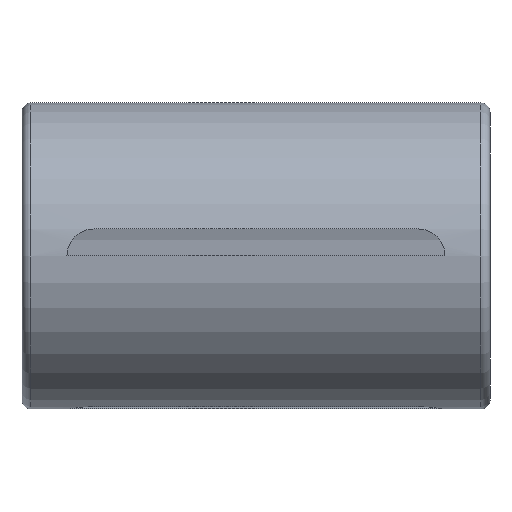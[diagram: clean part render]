
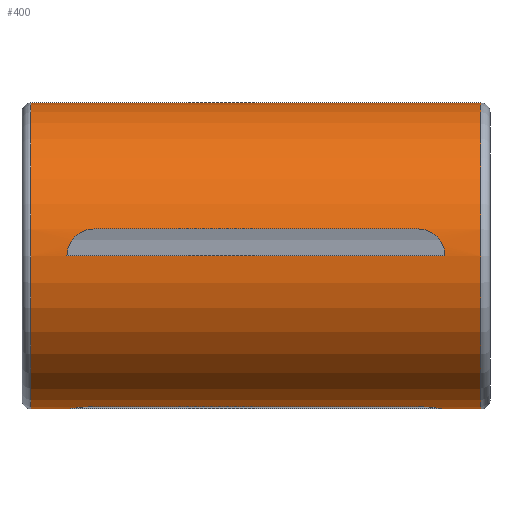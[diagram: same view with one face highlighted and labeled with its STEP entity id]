
A CAD part, front view. The second image highlights one B-rep face of the part: STEP entity #400.
In plain terms, the highlighted cylindrical face has radius 8.5 mm (diameter 17 mm), a full revolution.
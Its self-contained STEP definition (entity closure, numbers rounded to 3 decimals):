
#32=CIRCLE('',#436,8.5);
#33=CIRCLE('',#437,8.5);
#38=LINE('',#562,#70);
#39=LINE('',#570,#71);
#40=LINE('',#578,#72);
#41=LINE('',#586,#73);
#42=LINE('',#598,#74);
#43=LINE('',#606,#75);
#44=LINE('',#614,#76);
#45=LINE('',#622,#77);
#70=VECTOR('',#467,1000.);
#71=VECTOR('',#468,1000.);
#72=VECTOR('',#469,1000.);
#73=VECTOR('',#470,1000.);
#74=VECTOR('',#475,1000.);
#75=VECTOR('',#476,1000.);
#76=VECTOR('',#477,1000.);
#77=VECTOR('',#478,1000.);
#102=ORIENTED_EDGE('',*,*,#210,.T.);
#103=ORIENTED_EDGE('',*,*,#211,.T.);
#104=ORIENTED_EDGE('',*,*,#212,.T.);
#105=ORIENTED_EDGE('',*,*,#213,.T.);
#106=ORIENTED_EDGE('',*,*,#214,.T.);
#107=ORIENTED_EDGE('',*,*,#215,.T.);
#108=ORIENTED_EDGE('',*,*,#216,.T.);
#109=ORIENTED_EDGE('',*,*,#217,.T.);
#110=ORIENTED_EDGE('',*,*,#218,.T.);
#111=ORIENTED_EDGE('',*,*,#219,.T.);
#112=ORIENTED_EDGE('',*,*,#220,.T.);
#113=ORIENTED_EDGE('',*,*,#221,.T.);
#114=ORIENTED_EDGE('',*,*,#222,.T.);
#115=ORIENTED_EDGE('',*,*,#223,.T.);
#116=ORIENTED_EDGE('',*,*,#224,.T.);
#117=ORIENTED_EDGE('',*,*,#225,.T.);
#118=ORIENTED_EDGE('',*,*,#226,.T.);
#119=ORIENTED_EDGE('',*,*,#227,.T.);
#210=EDGE_CURVE('',#264,#265,#302,.T.);
#211=EDGE_CURVE('',#265,#266,#38,.F.);
#212=EDGE_CURVE('',#266,#267,#303,.T.);
#213=EDGE_CURVE('',#267,#264,#39,.T.);
#214=EDGE_CURVE('',#268,#269,#304,.T.);
#215=EDGE_CURVE('',#269,#270,#40,.F.);
#216=EDGE_CURVE('',#270,#271,#305,.T.);
#217=EDGE_CURVE('',#271,#268,#41,.T.);
#218=EDGE_CURVE('',#272,#272,#32,.F.);
#219=EDGE_CURVE('',#273,#273,#33,.T.);
#220=EDGE_CURVE('',#274,#275,#306,.T.);
#221=EDGE_CURVE('',#275,#276,#42,.F.);
#222=EDGE_CURVE('',#276,#277,#307,.T.);
#223=EDGE_CURVE('',#277,#274,#43,.T.);
#224=EDGE_CURVE('',#278,#279,#308,.T.);
#225=EDGE_CURVE('',#279,#280,#44,.F.);
#226=EDGE_CURVE('',#280,#281,#309,.T.);
#227=EDGE_CURVE('',#281,#278,#45,.T.);
#264=VERTEX_POINT('',#560);
#265=VERTEX_POINT('',#561);
#266=VERTEX_POINT('',#563);
#267=VERTEX_POINT('',#569);
#268=VERTEX_POINT('',#576);
#269=VERTEX_POINT('',#577);
#270=VERTEX_POINT('',#579);
#271=VERTEX_POINT('',#585);
#272=VERTEX_POINT('',#588);
#273=VERTEX_POINT('',#590);
#274=VERTEX_POINT('',#596);
#275=VERTEX_POINT('',#597);
#276=VERTEX_POINT('',#599);
#277=VERTEX_POINT('',#605);
#278=VERTEX_POINT('',#612);
#279=VERTEX_POINT('',#613);
#280=VERTEX_POINT('',#615);
#281=VERTEX_POINT('',#621);
#302=B_SPLINE_CURVE_WITH_KNOTS('',3,(#555,#556,#557,#558,#559),
 .UNSPECIFIED.,.F.,.F.,(4,1,4),(0.,0.001,
0.002),.UNSPECIFIED.);
#303=B_SPLINE_CURVE_WITH_KNOTS('',3,(#564,#565,#566,#567,#568),
 .UNSPECIFIED.,.F.,.F.,(4,1,4),(0.,0.001,0.002),
 .UNSPECIFIED.);
#304=B_SPLINE_CURVE_WITH_KNOTS('',3,(#571,#572,#573,#574,#575),
 .UNSPECIFIED.,.F.,.F.,(4,1,4),(0.,0.001,
0.002),.UNSPECIFIED.);
#305=B_SPLINE_CURVE_WITH_KNOTS('',3,(#580,#581,#582,#583,#584),
 .UNSPECIFIED.,.F.,.F.,(4,1,4),(0.,0.001,0.002),
 .UNSPECIFIED.);
#306=B_SPLINE_CURVE_WITH_KNOTS('',3,(#591,#592,#593,#594,#595),
 .UNSPECIFIED.,.F.,.F.,(4,1,4),(0.,0.001,
0.002),.UNSPECIFIED.);
#307=B_SPLINE_CURVE_WITH_KNOTS('',3,(#600,#601,#602,#603,#604),
 .UNSPECIFIED.,.F.,.F.,(4,1,4),(0.,0.001,0.002),
 .UNSPECIFIED.);
#308=B_SPLINE_CURVE_WITH_KNOTS('',3,(#607,#608,#609,#610,#611),
 .UNSPECIFIED.,.F.,.F.,(4,1,4),(0.,0.001,
0.002),.UNSPECIFIED.);
#309=B_SPLINE_CURVE_WITH_KNOTS('',3,(#616,#617,#618,#619,#620),
 .UNSPECIFIED.,.F.,.F.,(4,1,4),(0.,0.001,0.002),
 .UNSPECIFIED.);
#318=EDGE_LOOP('',(#102,#103,#104,#105));
#319=EDGE_LOOP('',(#106,#107,#108,#109));
#320=EDGE_LOOP('',(#110));
#321=EDGE_LOOP('',(#111));
#322=EDGE_LOOP('',(#112,#113,#114,#115));
#323=EDGE_LOOP('',(#116,#117,#118,#119));
#354=FACE_BOUND('',#318,.T.);
#355=FACE_BOUND('',#319,.T.);
#356=FACE_BOUND('',#320,.T.);
#357=FACE_BOUND('',#321,.T.);
#358=FACE_BOUND('',#322,.T.);
#359=FACE_BOUND('',#323,.T.);
#390=CYLINDRICAL_SURFACE('',#435,8.5);
#400=ADVANCED_FACE('',(#354,#355,#356,#357,#358,#359),#390,.T.);
#435=AXIS2_PLACEMENT_3D('',#554,#465,#466);
#436=AXIS2_PLACEMENT_3D('',#587,#471,#472);
#437=AXIS2_PLACEMENT_3D('',#589,#473,#474);
#465=DIRECTION('',(-1.,0.,0.));
#466=DIRECTION('',(0.,0.,1.));
#467=DIRECTION('',(-1.,0.,0.));
#468=DIRECTION('',(-1.,0.,0.));
#469=DIRECTION('',(-1.,0.,0.));
#470=DIRECTION('',(-1.,0.,0.));
#471=DIRECTION('',(1.,0.,0.));
#472=DIRECTION('',(0.,0.,-1.));
#473=DIRECTION('',(1.,0.,0.));
#474=DIRECTION('',(0.,0.,-1.));
#475=DIRECTION('',(-1.,0.,0.));
#476=DIRECTION('',(-1.,0.,0.));
#477=DIRECTION('',(-1.,0.,0.));
#478=DIRECTION('',(-1.,0.,0.));
#554=CARTESIAN_POINT('',(13.,0.,0.));
#555=CARTESIAN_POINT('',(-10.5,0.,-8.5));
#556=CARTESIAN_POINT('',(-10.5,-0.397,-8.5));
#557=CARTESIAN_POINT('',(-10.173,-1.172,-8.434));
#558=CARTESIAN_POINT('',(-9.397,-1.5,-8.367));
#559=CARTESIAN_POINT('',(-9.,-1.5,-8.367));
#560=CARTESIAN_POINT('',(-10.5,0.,-8.5));
#561=CARTESIAN_POINT('',(-9.,-1.5,-8.367));
#562=CARTESIAN_POINT('',(13.,-1.5,-8.367));
#563=CARTESIAN_POINT('',(9.,-1.5,-8.367));
#564=CARTESIAN_POINT('',(9.,-1.5,-8.367));
#565=CARTESIAN_POINT('',(9.397,-1.5,-8.367));
#566=CARTESIAN_POINT('',(10.172,-1.174,-8.434));
#567=CARTESIAN_POINT('',(10.5,-0.397,-8.5));
#568=CARTESIAN_POINT('',(10.5,0.,-8.5));
#569=CARTESIAN_POINT('',(10.5,0.,-8.5));
#570=CARTESIAN_POINT('',(13.,0.,-8.5));
#571=CARTESIAN_POINT('',(-10.5,0.,8.5));
#572=CARTESIAN_POINT('',(-10.5,0.397,8.5));
#573=CARTESIAN_POINT('',(-10.173,1.172,8.434));
#574=CARTESIAN_POINT('',(-9.397,1.5,8.367));
#575=CARTESIAN_POINT('',(-9.,1.5,8.367));
#576=CARTESIAN_POINT('',(-10.5,0.,8.5));
#577=CARTESIAN_POINT('',(-9.,1.5,8.367));
#578=CARTESIAN_POINT('',(13.,1.5,8.367));
#579=CARTESIAN_POINT('',(9.,1.5,8.367));
#580=CARTESIAN_POINT('',(9.,1.5,8.367));
#581=CARTESIAN_POINT('',(9.397,1.5,8.367));
#582=CARTESIAN_POINT('',(10.172,1.174,8.434));
#583=CARTESIAN_POINT('',(10.5,0.397,8.5));
#584=CARTESIAN_POINT('',(10.5,0.,8.5));
#585=CARTESIAN_POINT('',(10.5,0.,8.5));
#586=CARTESIAN_POINT('',(13.,0.,8.5));
#587=CARTESIAN_POINT('',(12.5,0.,0.));
#588=CARTESIAN_POINT('',(12.5,0.,-8.5));
#589=CARTESIAN_POINT('',(-12.5,0.,0.));
#590=CARTESIAN_POINT('',(-12.5,0.,-8.5));
#591=CARTESIAN_POINT('',(-10.5,8.5,0.));
#592=CARTESIAN_POINT('',(-10.5,8.5,-0.397));
#593=CARTESIAN_POINT('',(-10.173,8.434,-1.172));
#594=CARTESIAN_POINT('',(-9.397,8.367,-1.5));
#595=CARTESIAN_POINT('',(-9.,8.367,-1.5));
#596=CARTESIAN_POINT('',(-10.5,8.5,0.));
#597=CARTESIAN_POINT('',(-9.,8.367,-1.5));
#598=CARTESIAN_POINT('',(13.,8.367,-1.5));
#599=CARTESIAN_POINT('',(9.,8.367,-1.5));
#600=CARTESIAN_POINT('',(9.,8.367,-1.5));
#601=CARTESIAN_POINT('',(9.397,8.367,-1.5));
#602=CARTESIAN_POINT('',(10.172,8.434,-1.174));
#603=CARTESIAN_POINT('',(10.5,8.5,-0.397));
#604=CARTESIAN_POINT('',(10.5,8.5,0.));
#605=CARTESIAN_POINT('',(10.5,8.5,0.));
#606=CARTESIAN_POINT('',(13.,8.5,0.));
#607=CARTESIAN_POINT('',(-10.5,-8.5,0.));
#608=CARTESIAN_POINT('',(-10.5,-8.5,0.397));
#609=CARTESIAN_POINT('',(-10.173,-8.434,1.172));
#610=CARTESIAN_POINT('',(-9.397,-8.367,1.5));
#611=CARTESIAN_POINT('',(-9.,-8.367,1.5));
#612=CARTESIAN_POINT('',(-10.5,-8.5,0.));
#613=CARTESIAN_POINT('',(-9.,-8.367,1.5));
#614=CARTESIAN_POINT('',(13.,-8.367,1.5));
#615=CARTESIAN_POINT('',(9.,-8.367,1.5));
#616=CARTESIAN_POINT('',(9.,-8.367,1.5));
#617=CARTESIAN_POINT('',(9.397,-8.367,1.5));
#618=CARTESIAN_POINT('',(10.172,-8.434,1.174));
#619=CARTESIAN_POINT('',(10.5,-8.5,0.397));
#620=CARTESIAN_POINT('',(10.5,-8.5,0.));
#621=CARTESIAN_POINT('',(10.5,-8.5,0.));
#622=CARTESIAN_POINT('',(13.,-8.5,0.));
